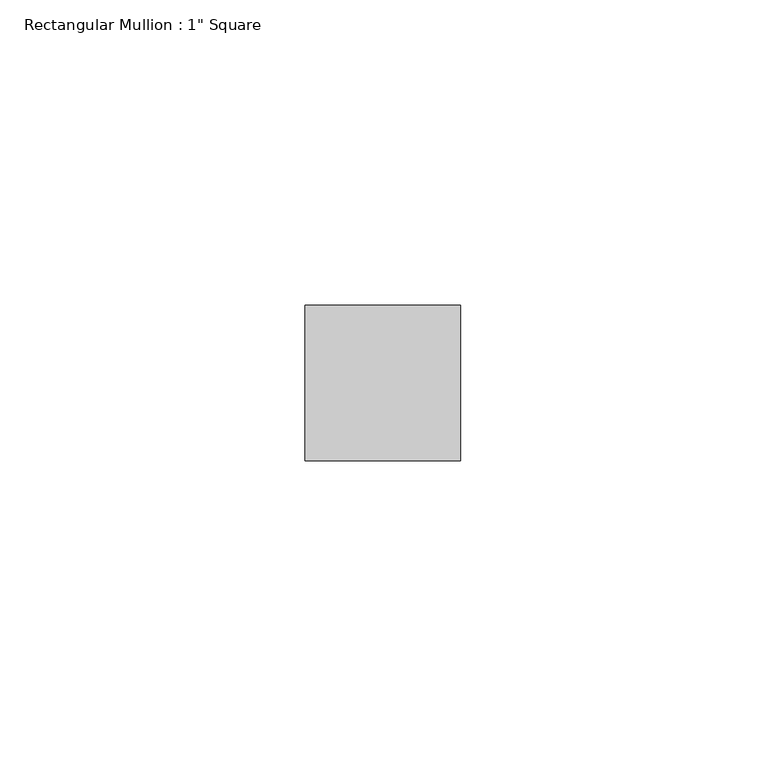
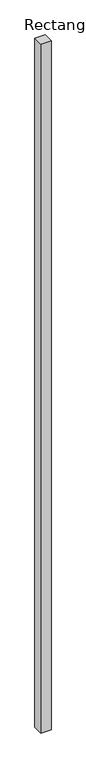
"""IFC4 building model written with IfcOpenShell, lengths in millimetres: member geometry."""

from ifc_helpers import new_model, si_unit, frame, origin, place, context, project, spatial, polyline, outline, extrude, source, transform, mapped, element, save


def member_2317d74f(model_context):
    return source(origin(), model_context, "Body", "SweptSolid", [
        extrude(outline(polyline([(12.7, 12.7), (12.7, -12.7), (-12.7, -12.7), (-12.7, 12.7), (12.7, 12.7)])), frame((0.0, 0.0, -1810.9398033), z_axis=(0.0, 0.0, 1.0), x_axis=(1.0, 0.0, 0.0)), (0.0, 0.0, 1.0), 1810.9398033),
    ])


if __name__ == "__main__":
    model = new_model("IFC4")
    model_context = context("Model", 3, world=origin())
    ifc_project = project(units=[si_unit("LENGTHUNIT", "METRE", prefix="MILLI")], contexts=[model_context])
    site = spatial("IfcSite", under=ifc_project)
    building = spatial("IfcBuilding", under=site)
    placement = place(None, origin())
    member_shape = member_2317d74f(model_context)
    element("IfcMember", 1, ObjectType="Rectangular Mullion : 1\" Square", at=placement, inside=building, context=model_context, shape_type="MappedRepresentation", body=[
        mapped(member_shape, transform((0.0, 0.0, 0.0), x_axis=(1.0, 0.0, 0.0), y_axis=(0.0, 1.0, 0.0), z_axis=(0.0, 0.0, 1.0))),
    ])
    save(model, "model.ifc")
